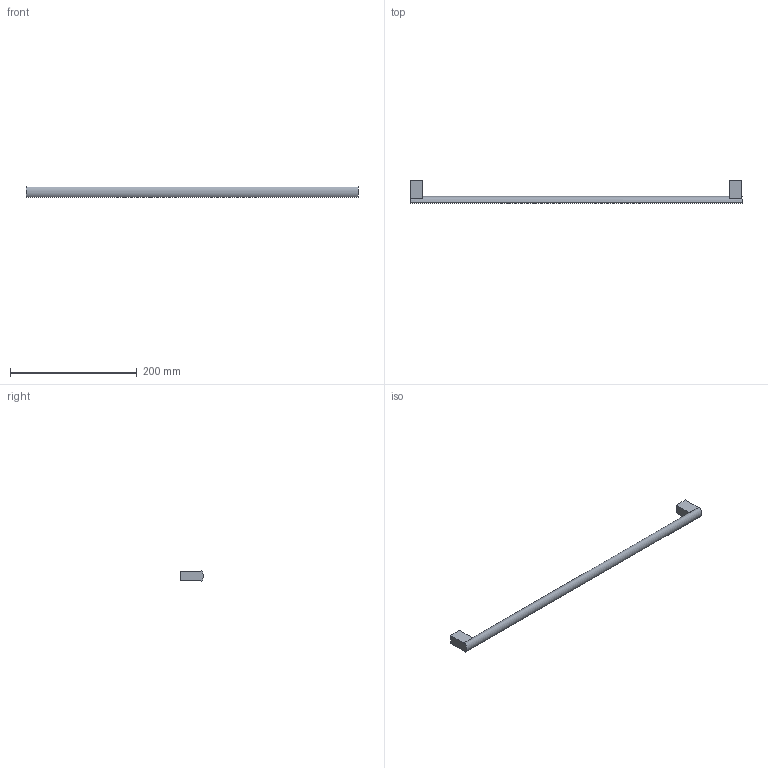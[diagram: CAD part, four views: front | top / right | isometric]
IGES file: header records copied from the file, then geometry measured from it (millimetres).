
Start section: Data from Parasolid IGES Translator 20.0.26, Copyright(c) 2006 Siemens P LM Software. All Rights Reserved.
Global section: file name: 115213.igs; native system: By Siemens PLM Incorporated; preprocessor: XPlus GENERIC/IGES 20.0.26; author: Noname; organization: Noname; date: 20230220.163609; units: millimetre
Bounding box: 524 x 35.96 x 16 mm (x, y, z)
Surface area: 26664.9 mm2 (no closed solid volume)
Topology: 0 solids, 0 shells, 22 faces, 102 edges, 100 vertices
Faces by surface type: extrusion 17, revolution 5
